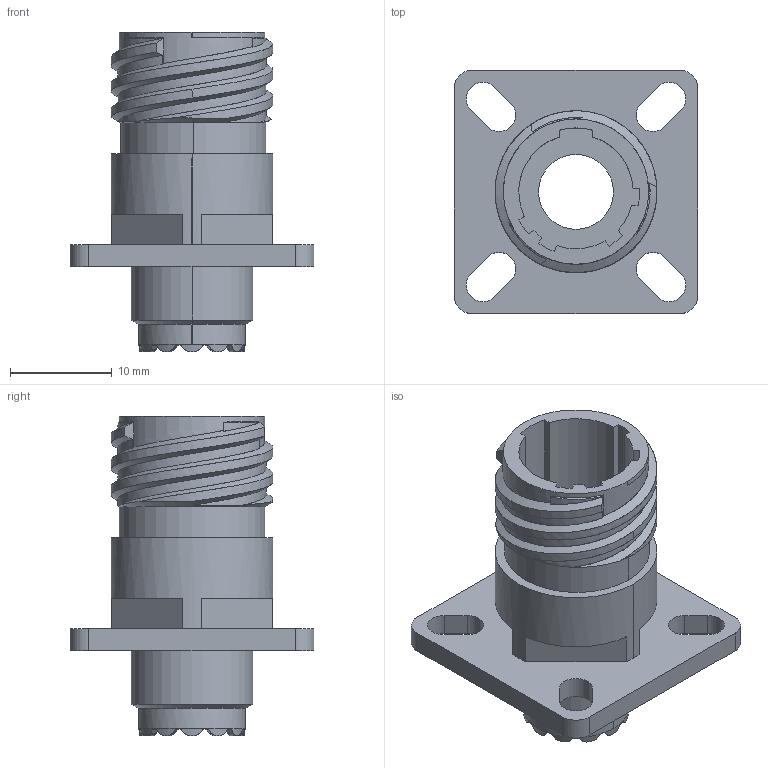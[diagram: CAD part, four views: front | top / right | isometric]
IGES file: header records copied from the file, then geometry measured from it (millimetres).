
Start section:  PTC IGES file: tv00_9_recp-shell.igs
Global section: file name: tv00_9_recp-shell.igs; native system: Creo Parametric by PTC Inc.; preprocessor: 2016260; author: t-nakamura; organization: Unknown; date: 20170605.102945; units: millimetre
Bounding box: 23.9 x 23.9 x 31.3 mm (x, y, z)
Surface area: 3852.5 mm2 (no closed solid volume)
Topology: 0 solids, 0 shells, 195 faces, 1116 edges, 1116 vertices
Faces by surface type: revolution 99, bspline 93, extrusion 3
